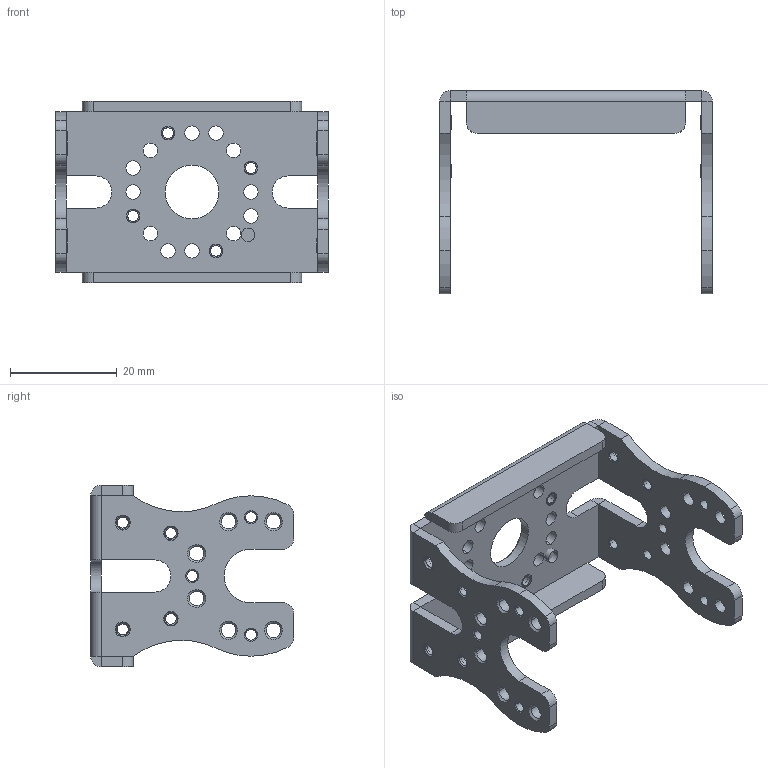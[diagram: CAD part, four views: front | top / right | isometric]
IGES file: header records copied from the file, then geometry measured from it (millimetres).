
Start section:  PTC IGES file: of-64h.igs
Global section: file name: of-64h.igs; native system: Pro/ENGINEER by Parametric Technology Corporation; preprocessor: 2006170; author: bono; organization: Unknown; date: 20061129.190954; units: millimetre
Bounding box: 51.13 x 38.07 x 34 mm (x, y, z)
Surface area: 9175.8 mm2 (no closed solid volume)
Topology: 0 solids, 0 shells, 308 faces, 2072 edges, 2384 vertices
Faces by surface type: revolution 256, bspline 52
